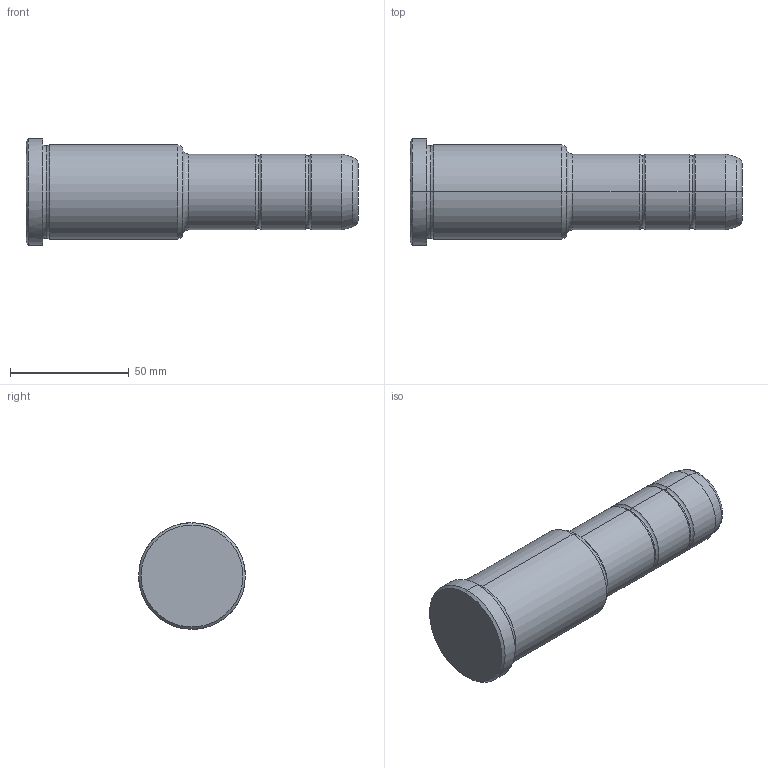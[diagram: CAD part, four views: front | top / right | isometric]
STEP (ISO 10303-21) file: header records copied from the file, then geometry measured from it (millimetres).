
FILE_DESCRIPTION(('CATIA V5 STEP Exchange'),'2;1');
FILE_NAME('C:\Users\Utente\Desktop\IO LAVORO\3D X SITO CF\X SITO\PLASTICA\351\351-32X66X140.stp','2021-09-07T12:30:30+00:00',('none'),('none'),'CATIA Version 5 Release 20 GA (IN-10)','CATIA V5 STEP AP203','none');
FILE_SCHEMA(('CONFIG_CONTROL_DESIGN'));
Length unit declared in the file: millimetre
Products named in the file (1): 351-32X66X140
Bounding box: 140 x 45 x 45 mm (x, y, z)
Volume: 143583.7 mm3; surface area: 18594.6 mm2
Topology: 1 solids, 1 shells, 36 faces, 102 edges, 70 vertices
Faces by surface type: torus 16, cylinder 10, cone 6, plane 4
Entity records: 1292 total; most frequent: CARTESIAN_POINT 321, ORIENTED_EDGE 204, DIRECTION 166, AXIS2_PLACEMENT_3D 115, EDGE_CURVE 102, CIRCLE 78, VERTEX_POINT 70, EDGE_LOOP 38
